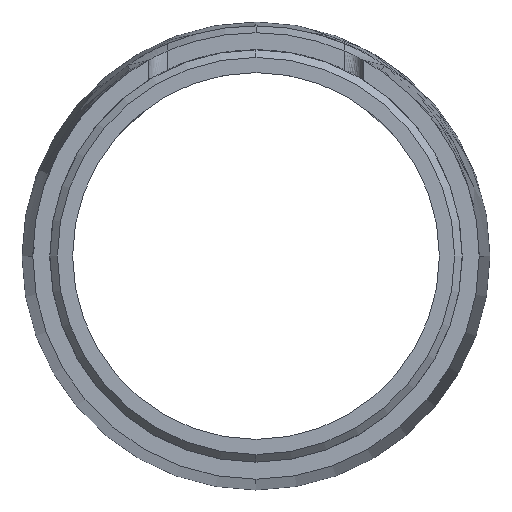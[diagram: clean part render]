
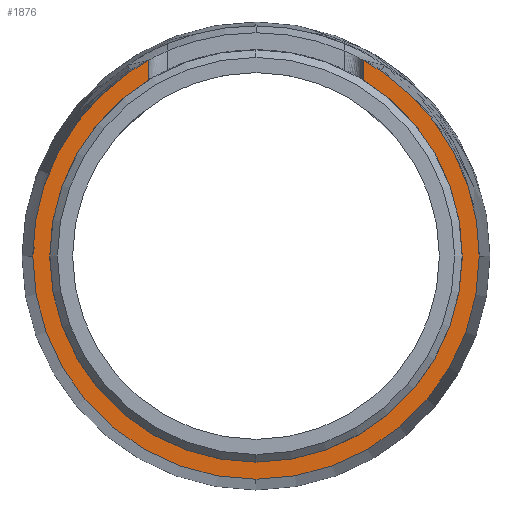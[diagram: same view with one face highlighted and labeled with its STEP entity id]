
A CAD part, front view. The second image highlights one B-rep face of the part: STEP entity #1876.
In plain terms, the highlighted planar face has unit normal (0, -1, 0).
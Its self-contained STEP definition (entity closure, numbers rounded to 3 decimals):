
#175 = EDGE_CURVE ( 'NONE', #330, #1757, #2713, .T. ) ;
#188 = AXIS2_PLACEMENT_3D ( 'NONE', #966, #1347, #2331 ) ;
#237 = CARTESIAN_POINT ( 'NONE',  ( 644.102, 112.953, 0. ) ) ;
#261 = ORIENTED_EDGE ( 'NONE', *, *, #3197, .T. ) ;
#330 = VERTEX_POINT ( 'NONE', #2549 ) ;
#341 = CARTESIAN_POINT ( 'NONE',  ( 654.162, 112.953, 14.502 ) ) ;
#409 = CARTESIAN_POINT ( 'NONE',  ( 635.065, 112.953, 15.174 ) ) ;
#413 = CIRCLE ( 'NONE', #188, 16.3 ) ;
#415 = AXIS2_PLACEMENT_3D ( 'NONE', #237, #1589, #1259 ) ;
#435 = VERTEX_POINT ( 'NONE', #1962 ) ;
#595 = CARTESIAN_POINT ( 'NONE',  ( 644.102, 112.953, -17.65 ) ) ;
#625 = AXIS2_PLACEMENT_3D ( 'NONE', #2189, #2567, #1806 ) ;
#673 = CARTESIAN_POINT ( 'NONE',  ( 653.659, 112.953, 14.851 ) ) ;
#692 = LINE ( 'NONE', #4386, #1698 ) ;
#726 = DIRECTION ( 'NONE',  ( 0., 0., 1. ) ) ;
#845 = EDGE_CURVE ( 'NONE', #3157, #4099, #1784, .T. ) ;
#957 = DIRECTION ( 'NONE',  ( 1., 0., 0. ) ) ;
#966 = CARTESIAN_POINT ( 'NONE',  ( 644.102, 112.953, 0. ) ) ;
#1175 = DIRECTION ( 'NONE',  ( 0., -1., 0. ) ) ;
#1237 = DIRECTION ( 'NONE',  ( 0., -1., 0. ) ) ;
#1259 = DIRECTION ( 'NONE',  ( -1., 0., 0. ) ) ;
#1285 = VERTEX_POINT ( 'NONE', #1829 ) ;
#1313 = EDGE_CURVE ( 'NONE', #1682, #1757, #2430, .T. ) ;
#1347 = DIRECTION ( 'NONE',  ( 0., -1., 0. ) ) ;
#1357 = VERTEX_POINT ( 'NONE', #3796 ) ;
#1391 = CARTESIAN_POINT ( 'NONE',  ( 634.042, 112.953, 14.502 ) ) ;
#1425 = EDGE_CURVE ( 'NONE', #1682, #4119, #413, .T. ) ;
#1428 = ORIENTED_EDGE ( 'NONE', *, *, #845, .T. ) ;
#1448 = CARTESIAN_POINT ( 'NONE',  ( 635.602, 112.953, 13.908 ) ) ;
#1470 = EDGE_CURVE ( 'NONE', #1285, #2355, #2486, .T. ) ;
#1589 = DIRECTION ( 'NONE',  ( 0., -1., 0. ) ) ;
#1676 = CARTESIAN_POINT ( 'NONE',  ( 652.602, 112.953, 15.468 ) ) ;
#1682 = VERTEX_POINT ( 'NONE', #1448 ) ;
#1698 = VECTOR ( 'NONE', #2688, 1000. ) ;
#1748 = AXIS2_PLACEMENT_3D ( 'NONE', #2632, #1237, #2320 ) ;
#1757 = VERTEX_POINT ( 'NONE', #1783 ) ;
#1783 = CARTESIAN_POINT ( 'NONE',  ( 635.602, 112.953, 15.468 ) ) ;
#1784 = CIRCLE ( 'NONE', #2367, 17.65 ) ;
#1791 = ORIENTED_EDGE ( 'NONE', *, *, #2895, .F. ) ;
#1806 = DIRECTION ( 'NONE',  ( 0., 0., -1. ) ) ;
#1829 = CARTESIAN_POINT ( 'NONE',  ( 652.602, 112.953, 15.468 ) ) ;
#1859 = CARTESIAN_POINT ( 'NONE',  ( 661.752, 112.953, 0. ) ) ;
#1876 = ADVANCED_FACE ( 'NONE', ( #4293 ), #3872, .T. ) ;
#1883 = DIRECTION ( 'NONE',  ( 0., 0., -1. ) ) ;
#1907 = CARTESIAN_POINT ( 'NONE',  ( 644.102, 112.953, -16.3 ) ) ;
#1962 = CARTESIAN_POINT ( 'NONE',  ( 626.452, 112.953, 0. ) ) ;
#2060 = CIRCLE ( 'NONE', #625, 16.3 ) ;
#2189 = CARTESIAN_POINT ( 'NONE',  ( 644.102, 112.953, 0. ) ) ;
#2320 = DIRECTION ( 'NONE',  ( 1., 0., 0. ) ) ;
#2331 = DIRECTION ( 'NONE',  ( 0., 0., -1. ) ) ;
#2346 = CARTESIAN_POINT ( 'NONE',  ( 654.162, 112.953, 14.502 ) ) ;
#2355 = VERTEX_POINT ( 'NONE', #2346 ) ;
#2367 = AXIS2_PLACEMENT_3D ( 'NONE', #3295, #2662, #957 ) ;
#2377 = ORIENTED_EDGE ( 'NONE', *, *, #175, .F. ) ;
#2414 = EDGE_CURVE ( 'NONE', #4099, #2355, #3740, .T. ) ;
#2430 = LINE ( 'NONE', #3459, #4385 ) ;
#2486 = B_SPLINE_CURVE_WITH_KNOTS ( 'NONE', 3,
 ( #1676, #4037, #673, #341 ),
 .UNSPECIFIED., .F., .F.,
 ( 4, 4 ),
 ( 0., 0.002 ),
 .UNSPECIFIED. ) ;
#2549 = CARTESIAN_POINT ( 'NONE',  ( 634.042, 112.953, 14.502 ) ) ;
#2567 = DIRECTION ( 'NONE',  ( 0., -1., 0. ) ) ;
#2632 = CARTESIAN_POINT ( 'NONE',  ( 644.102, 112.953, 0. ) ) ;
#2662 = DIRECTION ( 'NONE',  ( 0., -1., 0. ) ) ;
#2688 = DIRECTION ( 'NONE',  ( 0., 0., -1. ) ) ;
#2713 = B_SPLINE_CURVE_WITH_KNOTS ( 'NONE', 3,
 ( #1391, #2744, #409, #4367 ),
 .UNSPECIFIED., .F., .F.,
 ( 4, 4 ),
 ( 0., 0.002 ),
 .UNSPECIFIED. ) ;
#2744 = CARTESIAN_POINT ( 'NONE',  ( 634.545, 112.953, 14.851 ) ) ;
#2824 = ORIENTED_EDGE ( 'NONE', *, *, #4248, .T. ) ;
#2841 = CIRCLE ( 'NONE', #3188, 17.65 ) ;
#2895 = EDGE_CURVE ( 'NONE', #4119, #1357, #2060, .T. ) ;
#2900 = DIRECTION ( 'NONE',  ( 0., -1., 0. ) ) ;
#3080 = ORIENTED_EDGE ( 'NONE', *, *, #2414, .T. ) ;
#3157 = VERTEX_POINT ( 'NONE', #595 ) ;
#3188 = AXIS2_PLACEMENT_3D ( 'NONE', #4294, #2900, #4247 ) ;
#3197 = EDGE_CURVE ( 'NONE', #435, #3157, #3823, .T. ) ;
#3295 = CARTESIAN_POINT ( 'NONE',  ( 644.102, 112.953, 0. ) ) ;
#3355 = ORIENTED_EDGE ( 'NONE', *, *, #1470, .F. ) ;
#3449 = ORIENTED_EDGE ( 'NONE', *, *, #1313, .T. ) ;
#3459 = CARTESIAN_POINT ( 'NONE',  ( 635.602, 112.953, 18.78 ) ) ;
#3570 = ORIENTED_EDGE ( 'NONE', *, *, #1425, .F. ) ;
#3740 = CIRCLE ( 'NONE', #1748, 17.65 ) ;
#3796 = CARTESIAN_POINT ( 'NONE',  ( 652.602, 112.953, 13.908 ) ) ;
#3823 = CIRCLE ( 'NONE', #415, 17.65 ) ;
#3872 = PLANE ( 'NONE',  #4392 ) ;
#4037 = CARTESIAN_POINT ( 'NONE',  ( 653.138, 112.953, 15.174 ) ) ;
#4060 = ORIENTED_EDGE ( 'NONE', *, *, #4362, .T. ) ;
#4099 = VERTEX_POINT ( 'NONE', #1859 ) ;
#4119 = VERTEX_POINT ( 'NONE', #1907 ) ;
#4224 = CARTESIAN_POINT ( 'NONE',  ( 622.921, 112.953, 18.78 ) ) ;
#4247 = DIRECTION ( 'NONE',  ( -1., 0., 0. ) ) ;
#4248 = EDGE_CURVE ( 'NONE', #330, #435, #2841, .T. ) ;
#4293 = FACE_OUTER_BOUND ( 'NONE', #4322, .T. ) ;
#4294 = CARTESIAN_POINT ( 'NONE',  ( 644.102, 112.953, 0. ) ) ;
#4322 = EDGE_LOOP ( 'NONE', ( #2377, #2824, #261, #1428, #3080, #3355, #4060, #1791, #3570, #3449 ) ) ;
#4362 = EDGE_CURVE ( 'NONE', #1285, #1357, #692, .T. ) ;
#4367 = CARTESIAN_POINT ( 'NONE',  ( 635.602, 112.953, 15.468 ) ) ;
#4385 = VECTOR ( 'NONE', #726, 1000. ) ;
#4386 = CARTESIAN_POINT ( 'NONE',  ( 652.602, 112.953, 18.78 ) ) ;
#4392 = AXIS2_PLACEMENT_3D ( 'NONE', #4224, #1175, #1883 ) ;
